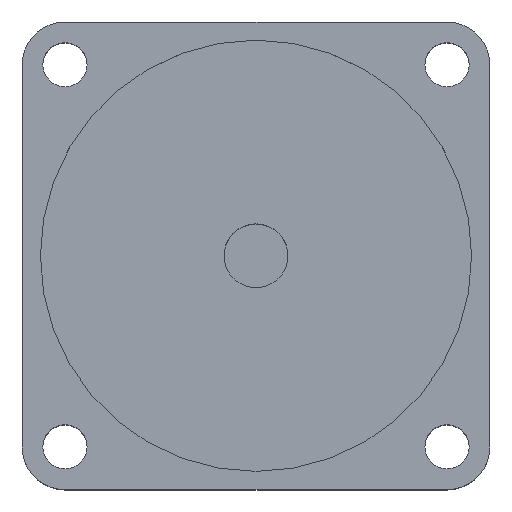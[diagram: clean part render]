
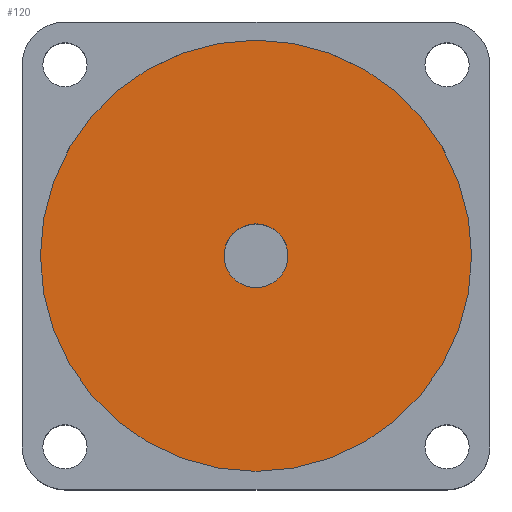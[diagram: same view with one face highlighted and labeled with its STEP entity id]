
A CAD part, top view. The second image highlights one B-rep face of the part: STEP entity #120.
In plain terms, the highlighted planar face has unit normal (0, 0, 1).
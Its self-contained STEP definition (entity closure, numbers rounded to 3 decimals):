
#3 = CIRCLE ( 'NONE', #412, 41.5 ) ;
#21 = DIRECTION ( 'NONE',  ( 0., 0., 1. ) ) ;
#48 = EDGE_CURVE ( 'NONE', #634, #432, #215, .T. ) ;
#118 = AXIS2_PLACEMENT_3D ( 'NONE', #1280, #1416, #206 ) ;
#120 = ADVANCED_FACE ( 'NONE', ( #130, #1187 ), #605, .T. ) ;
#130 = FACE_OUTER_BOUND ( 'NONE', #959, .T. ) ;
#161 = ORIENTED_EDGE ( 'NONE', *, *, #48, .T. ) ;
#206 = DIRECTION ( 'NONE',  ( 1., 0., 0. ) ) ;
#215 = CIRCLE ( 'NONE', #118, 6.15 ) ;
#234 = DIRECTION ( 'NONE',  ( 0., 0., -1. ) ) ;
#236 = EDGE_CURVE ( 'NONE', #432, #634, #791, .T. ) ;
#247 = CARTESIAN_POINT ( 'NONE',  ( 0., 0., -2. ) ) ;
#312 = ORIENTED_EDGE ( 'NONE', *, *, #522, .T. ) ;
#366 = CARTESIAN_POINT ( 'NONE',  ( 41.5, 0., -2. ) ) ;
#371 = DIRECTION ( 'NONE',  ( 0., 0., 1. ) ) ;
#412 = AXIS2_PLACEMENT_3D ( 'NONE', #624, #21, #536 ) ;
#424 = ORIENTED_EDGE ( 'NONE', *, *, #1383, .T. ) ;
#432 = VERTEX_POINT ( 'NONE', #535 ) ;
#519 = AXIS2_PLACEMENT_3D ( 'NONE', #1444, #371, #1207 ) ;
#522 = EDGE_CURVE ( 'NONE', #1522, #1095, #1009, .T. ) ;
#535 = CARTESIAN_POINT ( 'NONE',  ( 6.15, 0., -2. ) ) ;
#536 = DIRECTION ( 'NONE',  ( 1., 0., 0. ) ) ;
#605 = PLANE ( 'NONE',  #519 ) ;
#623 = CARTESIAN_POINT ( 'NONE',  ( -6.15, 0., -2. ) ) ;
#624 = CARTESIAN_POINT ( 'NONE',  ( 0., 0., -2. ) ) ;
#634 = VERTEX_POINT ( 'NONE', #623 ) ;
#675 = ORIENTED_EDGE ( 'NONE', *, *, #236, .T. ) ;
#791 = CIRCLE ( 'NONE', #1385, 6.15 ) ;
#831 = CARTESIAN_POINT ( 'NONE',  ( 0., 0., -2. ) ) ;
#864 = DIRECTION ( 'NONE',  ( 1., 0., 0. ) ) ;
#892 = AXIS2_PLACEMENT_3D ( 'NONE', #247, #1400, #1066 ) ;
#913 = CARTESIAN_POINT ( 'NONE',  ( -41.5, 0., -2. ) ) ;
#959 = EDGE_LOOP ( 'NONE', ( #312, #424 ) ) ;
#1009 = CIRCLE ( 'NONE', #892, 41.5 ) ;
#1014 = EDGE_LOOP ( 'NONE', ( #675, #161 ) ) ;
#1066 = DIRECTION ( 'NONE',  ( 1., 0., 0. ) ) ;
#1095 = VERTEX_POINT ( 'NONE', #913 ) ;
#1187 = FACE_BOUND ( 'NONE', #1014, .T. ) ;
#1207 = DIRECTION ( 'NONE',  ( 1., 0., 0. ) ) ;
#1280 = CARTESIAN_POINT ( 'NONE',  ( 0., 0., -2. ) ) ;
#1383 = EDGE_CURVE ( 'NONE', #1095, #1522, #3, .T. ) ;
#1385 = AXIS2_PLACEMENT_3D ( 'NONE', #831, #234, #864 ) ;
#1400 = DIRECTION ( 'NONE',  ( 0., 0., 1. ) ) ;
#1416 = DIRECTION ( 'NONE',  ( 0., 0., -1. ) ) ;
#1444 = CARTESIAN_POINT ( 'NONE',  ( 0., 0., -2. ) ) ;
#1522 = VERTEX_POINT ( 'NONE', #366 ) ;
